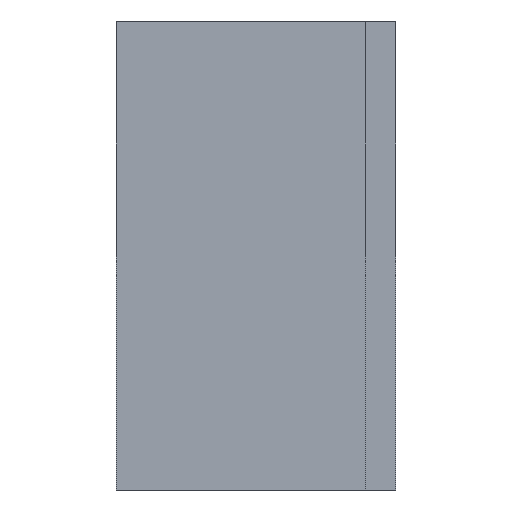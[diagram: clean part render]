
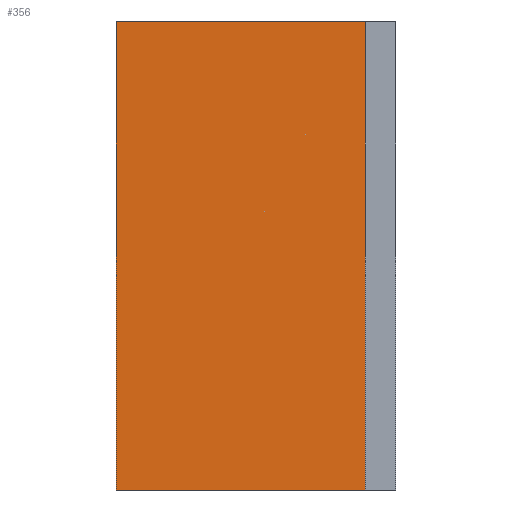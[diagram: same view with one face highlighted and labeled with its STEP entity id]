
A CAD part, left-side view. The second image highlights one B-rep face of the part: STEP entity #356.
In plain terms, the highlighted planar face has unit normal (-1, 0, 0).
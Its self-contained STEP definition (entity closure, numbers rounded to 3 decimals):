
#13 = VERTEX_POINT ( 'NONE', #595 ) ;
#44 = CARTESIAN_POINT ( 'NONE',  ( -63., 5., 38.5 ) ) ;
#45 = EDGE_CURVE ( 'NONE', #51, #540, #346, .T. ) ;
#51 = VERTEX_POINT ( 'NONE', #453 ) ;
#182 = VECTOR ( 'NONE', #784, 1000. ) ;
#193 = DIRECTION ( 'NONE',  ( 1., 0., 0. ) ) ;
#195 = ORIENTED_EDGE ( 'NONE', *, *, #501, .F. ) ;
#203 = LINE ( 'NONE', #692, #363 ) ;
#254 = ORIENTED_EDGE ( 'NONE', *, *, #45, .F. ) ;
#292 = EDGE_LOOP ( 'NONE', ( #495, #254, #195, #796 ) ) ;
#293 = LINE ( 'NONE', #722, #658 ) ;
#346 = LINE ( 'NONE', #698, #777 ) ;
#356 = ADVANCED_FACE ( 'NONE', ( #639 ), #450, .F. ) ;
#363 = VECTOR ( 'NONE', #797, 1000. ) ;
#411 = EDGE_CURVE ( 'NONE', #540, #13, #293, .T. ) ;
#415 = DIRECTION ( 'NONE',  ( 0., 0., -1. ) ) ;
#442 = DIRECTION ( 'NONE',  ( 0., -1., 0. ) ) ;
#450 = PLANE ( 'NONE',  #769 ) ;
#453 = CARTESIAN_POINT ( 'NONE',  ( -63., 46., 38.5 ) ) ;
#485 = CARTESIAN_POINT ( 'NONE',  ( -63., 46., -38.5 ) ) ;
#495 = ORIENTED_EDGE ( 'NONE', *, *, #411, .F. ) ;
#496 = VERTEX_POINT ( 'NONE', #485 ) ;
#501 = EDGE_CURVE ( 'NONE', #496, #51, #619, .T. ) ;
#507 = CARTESIAN_POINT ( 'NONE',  ( -63., 46., 38.5 ) ) ;
#540 = VERTEX_POINT ( 'NONE', #44 ) ;
#570 = DIRECTION ( 'NONE',  ( 0., 0., -1. ) ) ;
#595 = CARTESIAN_POINT ( 'NONE',  ( -63., 5., -38.5 ) ) ;
#619 = LINE ( 'NONE', #735, #182 ) ;
#639 = FACE_OUTER_BOUND ( 'NONE', #292, .T. ) ;
#658 = VECTOR ( 'NONE', #415, 1000. ) ;
#692 = CARTESIAN_POINT ( 'NONE',  ( -63., 46., -38.5 ) ) ;
#698 = CARTESIAN_POINT ( 'NONE',  ( -63., 46., 38.5 ) ) ;
#722 = CARTESIAN_POINT ( 'NONE',  ( -63., 5., -38.5 ) ) ;
#735 = CARTESIAN_POINT ( 'NONE',  ( -63., 46., 38.5 ) ) ;
#769 = AXIS2_PLACEMENT_3D ( 'NONE', #507, #193, #570 ) ;
#777 = VECTOR ( 'NONE', #442, 1000. ) ;
#784 = DIRECTION ( 'NONE',  ( 0., 0., 1. ) ) ;
#796 = ORIENTED_EDGE ( 'NONE', *, *, #799, .T. ) ;
#797 = DIRECTION ( 'NONE',  ( 0., -1., 0. ) ) ;
#799 = EDGE_CURVE ( 'NONE', #496, #13, #203, .T. ) ;
